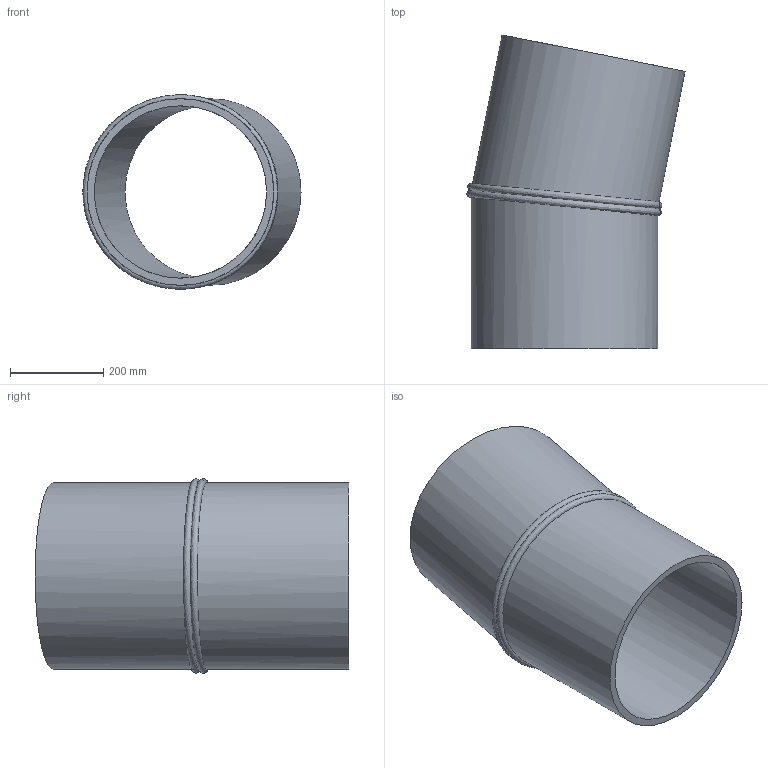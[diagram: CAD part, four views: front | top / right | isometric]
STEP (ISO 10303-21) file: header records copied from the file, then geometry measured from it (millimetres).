
FILE_DESCRIPTION(/* description */ ('Unknown'),/* implementation_level */ '2;1');
FILE_NAME(/* name */ 'Curva 11.25° a settore DE400 SDR26',/* time_stamp */ '2022-07-22T15:34:05+02:00',/* author */ ('Unknown'),/* organization */ ('Unknown'),/* preprocessor_version */ 'ST-DEVELOPER v18.102',/* originating_system */ 'Solid Edge',/* authorisation */ 'Unknown');
FILE_SCHEMA (('AUTOMOTIVE_DESIGN {1 0 10303 214 3 1 1}'));
Length unit declared in the file: millimetre
Products named in the file (2): Curva 11.25° a settore DE400 SDR26; Tubo x Gomito 11.25° DE400 SDR26
Assembly tree (2 placements, depth 2):
  Curva 11.25° a settore DE400 SDR26
    Tubo x Gomito 11.25° DE400 SDR26  x2
Bounding box: 467.47 x 672.27 x 416.46 mm (x, y, z)
Volume: 12077362.5 mm3; surface area: 1646830.3 mm2
Topology: 2 solids, 2 shells, 10 faces, 20 edges, 14 vertices
Faces by surface type: cylinder 4, plane 4, bspline 2
Full cylindrical faces by diameter (mm): 369.4 x2, 400 x2
Entity records: 767 total; most frequent: CARTESIAN_POINT 630, DIRECTION 20, ORIENTED_EDGE 10, EDGE_LOOP 10, FACE_BOUND 10, AXIS2_PLACEMENT_3D 10, EDGE_CURVE 5, VERTEX_POINT 5
